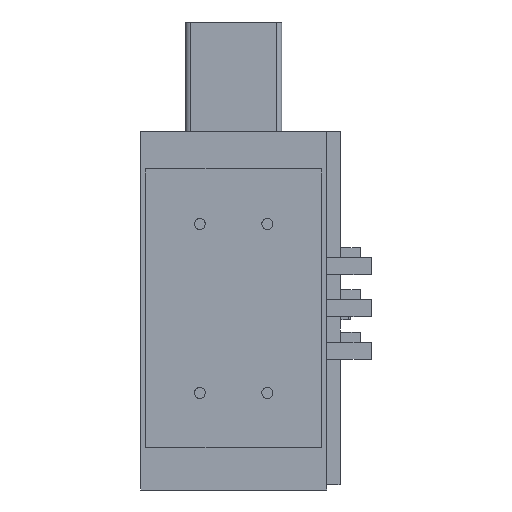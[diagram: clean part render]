
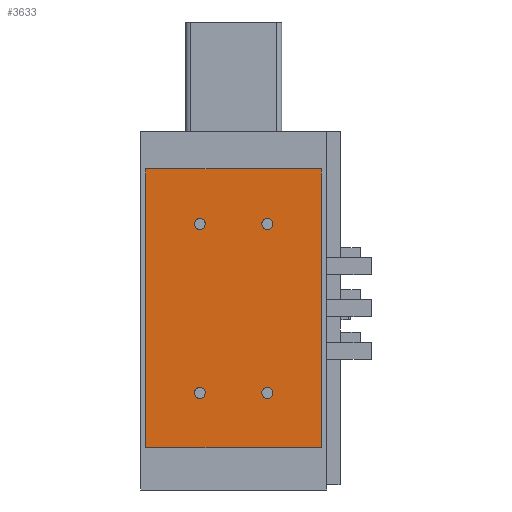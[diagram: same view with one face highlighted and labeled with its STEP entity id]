
A CAD part, front view. The second image highlights one B-rep face of the part: STEP entity #3633.
In plain terms, the highlighted planar face has unit normal (0, -1, 0).
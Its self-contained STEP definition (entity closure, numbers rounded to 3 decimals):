
#184=CARTESIAN_POINT('',(16.75,0.,157.5));
#185=VERTEX_POINT('',#184);
#186=CARTESIAN_POINT('',(20.,0.0,157.5));
#187=DIRECTION('',(0.0,1.0,0.0));
#188=DIRECTION('',(1.0,0.0,0.0));
#189=AXIS2_PLACEMENT_3D('',#186,#187,#188);
#190=CIRCLE('',#189,3.25);
#191=EDGE_CURVE('',#185,#185,#190,.T.);
#261=CARTESIAN_POINT('',(-23.25,0.,157.5));
#262=VERTEX_POINT('',#261);
#263=CARTESIAN_POINT('',(-20.,0.0,157.5));
#264=DIRECTION('',(0.0,1.0,0.0));
#265=DIRECTION('',(1.0,0.0,0.0));
#266=AXIS2_PLACEMENT_3D('',#263,#264,#265);
#267=CIRCLE('',#266,3.25);
#268=EDGE_CURVE('',#262,#262,#267,.T.);
#338=CARTESIAN_POINT('',(16.75,0.,57.5));
#339=VERTEX_POINT('',#338);
#340=CARTESIAN_POINT('',(20.,0.0,57.5));
#341=DIRECTION('',(0.0,1.0,0.0));
#342=DIRECTION('',(1.0,0.0,0.0));
#343=AXIS2_PLACEMENT_3D('',#340,#341,#342);
#344=CIRCLE('',#343,3.25);
#345=EDGE_CURVE('',#339,#339,#344,.T.);
#415=CARTESIAN_POINT('',(-23.25,0.,57.5));
#416=VERTEX_POINT('',#415);
#417=CARTESIAN_POINT('',(-20.,0.0,57.5));
#418=DIRECTION('',(0.0,1.0,0.0));
#419=DIRECTION('',(1.0,0.0,0.0));
#420=AXIS2_PLACEMENT_3D('',#417,#418,#419);
#421=CIRCLE('',#420,3.25);
#422=EDGE_CURVE('',#416,#416,#421,.T.);
#3542=CARTESIAN_POINT('',(52.,0.,25.));
#3543=VERTEX_POINT('',#3542);
#3550=CARTESIAN_POINT('',(-52.0,0.,25.));
#3551=VERTEX_POINT('',#3550);
#3552=CARTESIAN_POINT('',(-52.0,0.,25.));
#3553=DIRECTION('',(1.0,0.0,0.0));
#3554=VECTOR('',#3553,104.0);
#3555=LINE('',#3552,#3554);
#3556=EDGE_CURVE('',#3551,#3543,#3555,.T.);
#3573=CARTESIAN_POINT('',(-52.,0.,190.));
#3574=VERTEX_POINT('',#3573);
#3575=CARTESIAN_POINT('',(-52.0,0.,25.));
#3576=DIRECTION('',(0.0,0.0,1.0));
#3577=VECTOR('',#3576,165.);
#3578=LINE('',#3575,#3577);
#3579=EDGE_CURVE('',#3551,#3574,#3578,.T.);
#3598=CARTESIAN_POINT('',(52.0,0.,0.0));
#3599=DIRECTION('',(0.0,-1.0,0.0));
#3600=DIRECTION('',(0.0,0.0,-1.0));
#3601=AXIS2_PLACEMENT_3D('',#3598,#3599,#3600);
#3602=PLANE('',#3601);
#3603=ORIENTED_EDGE('',*,*,#3556,.T.);
#3604=CARTESIAN_POINT('',(52.,0.,190.));
#3605=VERTEX_POINT('',#3604);
#3606=CARTESIAN_POINT('',(52.,0.,25.));
#3607=DIRECTION('',(0.0,0.0,1.0));
#3608=VECTOR('',#3607,165.);
#3609=LINE('',#3606,#3608);
#3610=EDGE_CURVE('',#3543,#3605,#3609,.T.);
#3611=ORIENTED_EDGE('',*,*,#3610,.T.);
#3612=CARTESIAN_POINT('',(52.,0.,190.));
#3613=DIRECTION('',(-1.0,0.0,0.0));
#3614=VECTOR('',#3613,104.);
#3615=LINE('',#3612,#3614);
#3616=EDGE_CURVE('',#3605,#3574,#3615,.T.);
#3617=ORIENTED_EDGE('',*,*,#3616,.T.);
#3618=ORIENTED_EDGE('',*,*,#3579,.F.);
#3619=EDGE_LOOP('',(#3603,#3611,#3617,#3618));
#3620=FACE_OUTER_BOUND('',#3619,.T.);
#3621=ORIENTED_EDGE('',*,*,#191,.T.);
#3622=EDGE_LOOP('',(#3621));
#3623=FACE_BOUND('',#3622,.T.);
#3624=ORIENTED_EDGE('',*,*,#268,.T.);
#3625=EDGE_LOOP('',(#3624));
#3626=FACE_BOUND('',#3625,.T.);
#3627=ORIENTED_EDGE('',*,*,#345,.T.);
#3628=EDGE_LOOP('',(#3627));
#3629=FACE_BOUND('',#3628,.T.);
#3630=ORIENTED_EDGE('',*,*,#422,.T.);
#3631=EDGE_LOOP('',(#3630));
#3632=FACE_BOUND('',#3631,.T.);
#3633=ADVANCED_FACE('',(#3620,#3623,#3626,#3629,#3632),#3602,.T.);
